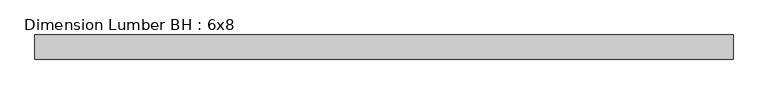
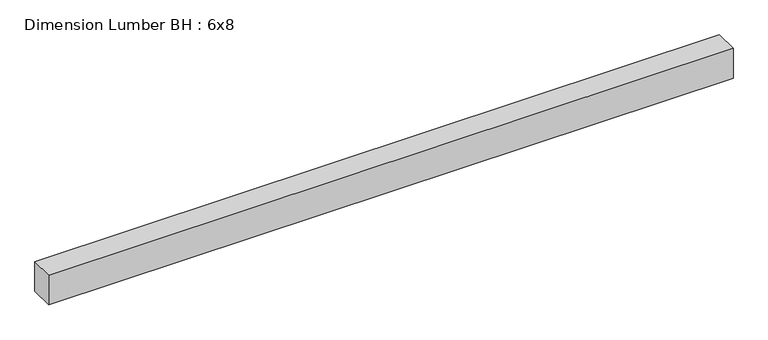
"""IFC4 building model written with IfcOpenShell, lengths in millimetres: beam geometry, Dimension Lumber BH : 6x8."""

from ifc_helpers import new_model, si_unit, frame, origin, place, context, project, spatial, polyline, outline, extrude, source, transform, mapped, element, save


def dimension_lumber_bh_6x8_9cf79a14(model_context):
    return source(origin(), model_context, "Body", "SweptSolid", [
        extrude(outline(polyline([(2053.48205, 69.85), (2053.48205, -69.85), (-1983.63205, -69.85), (-1983.63205, 69.85), (2053.48205, 69.85)])), frame((0.0, 0.0, -92.075), z_axis=(0.0, 0.0, 1.0), x_axis=(1.0, 0.0, 0.0)), (0.0, 0.0, 1.0), 184.15),
    ])


if __name__ == "__main__":
    model = new_model("IFC4")
    model_context = context("Model", 3, world=origin())
    ifc_project = project(units=[si_unit("LENGTHUNIT", "METRE", prefix="MILLI")], contexts=[model_context])
    site = spatial("IfcSite", under=ifc_project)
    building = spatial("IfcBuilding", under=site)
    placement = place(None, origin())
    dimension_lumber_bh_6x8_shape = dimension_lumber_bh_6x8_9cf79a14(model_context)
    element("IfcBeam", 1, ObjectType="Dimension Lumber BH : 6x8", at=placement, inside=building, context=model_context, shape_type="MappedRepresentation", body=[
        mapped(dimension_lumber_bh_6x8_shape, transform((0.0, 0.0, 0.0), x_axis=(1.0, 0.0, 0.0), y_axis=(0.0, 1.0, 0.0), z_axis=(0.0, 0.0, 1.0))),
    ])
    save(model, "model.ifc")
